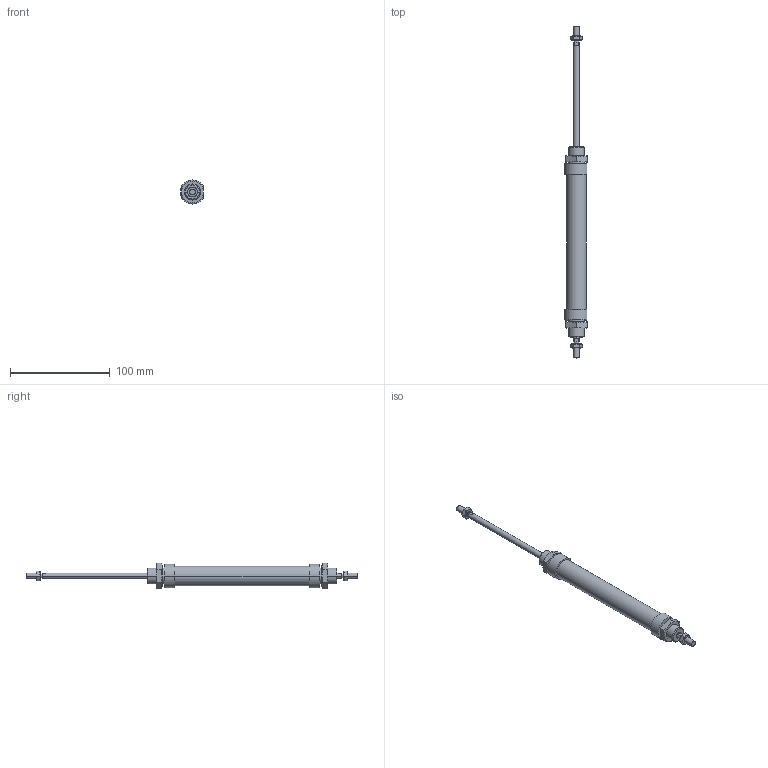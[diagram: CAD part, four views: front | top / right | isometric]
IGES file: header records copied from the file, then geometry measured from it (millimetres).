
Global section: file name: No Iges File Name specified; native system: AutoDesk Inventor R6.0; preprocessor: AutoDesk Inventor Iges Exporter R6.0; author: No Author specified; organization: No Organization specified; date: 20030403.072201; units: millimetre
Bounding box: 23 x 332 x 25.4 mm (x, y, z)
Volume: 65694.8 mm3; surface area: 25769.5 mm2
Topology: 6 solids, 6 shells, 180 faces, 388 edges, 228 vertices
Faces by surface type: cone 68, plane 56, bspline 30, cylinder 20, revolution 6
